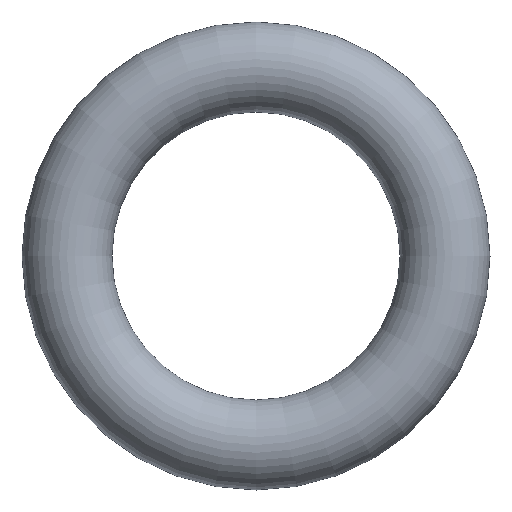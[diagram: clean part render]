
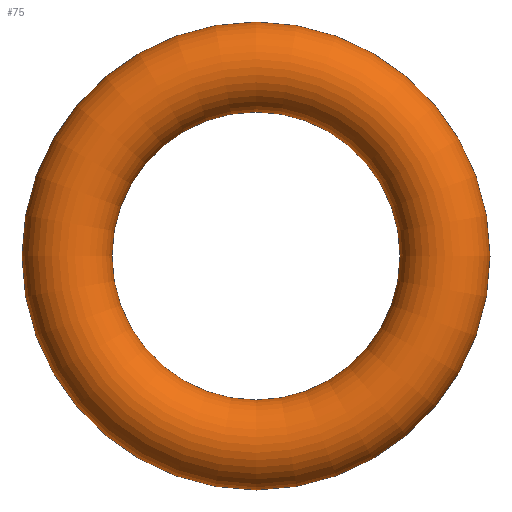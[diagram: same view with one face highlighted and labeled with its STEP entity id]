
A CAD part, front view. The second image highlights one B-rep face of the part: STEP entity #75.
In plain terms, the highlighted toroidal (fillet/blend) face has major radius 5.25 mm and minor radius 1.25 mm.
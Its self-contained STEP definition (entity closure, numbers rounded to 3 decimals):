
#75 = ADVANCED_FACE( '', ( #77 ), #78, .T. );
#77 = FACE_BOUND( '', #79, .T. );
#78 = TOROIDAL_SURFACE( '', #80, 5.25, 1.25 );
#79 = VERTEX_LOOP( '', #81 );
#80 = AXIS2_PLACEMENT_3D( '', #82, #83, #84 );
#81 = VERTEX_POINT( '', #85 );
#82 = CARTESIAN_POINT( '', ( 0., 0., 0. ) );
#83 = DIRECTION( '', ( 0., -1., 0. ) );
#84 = DIRECTION( '', ( 0., 0., -1. ) );
#85 = CARTESIAN_POINT( '', ( 0., 0., -6.5 ) );
